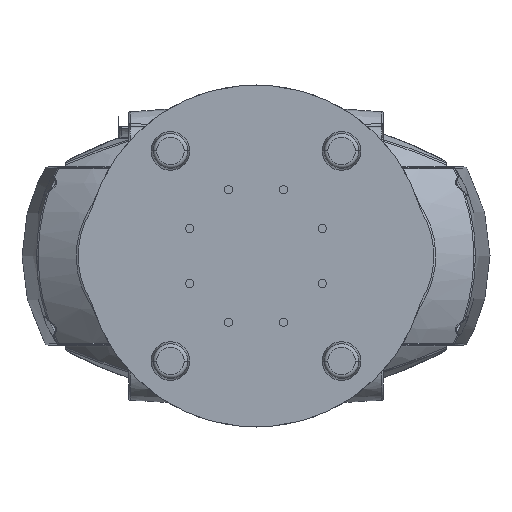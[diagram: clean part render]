
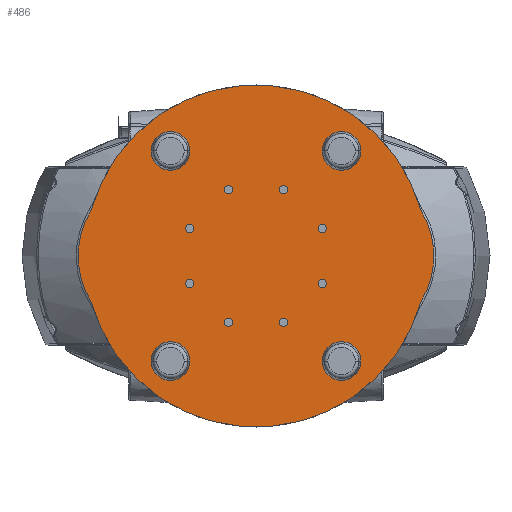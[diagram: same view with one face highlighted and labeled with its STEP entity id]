
A CAD part, front view. The second image highlights one B-rep face of the part: STEP entity #486.
In plain terms, the highlighted planar face has unit normal (0, -1, 0).
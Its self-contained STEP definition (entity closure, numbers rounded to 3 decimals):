
#148=CARTESIAN_POINT('',(0.,-1.,0.));
#149=DIRECTION('',(0.,1.,0.));
#150=DIRECTION('',(0.963,0.,-0.27));
#151=AXIS2_PLACEMENT_3D('',#148,#149,#150);
#153=CARTESIAN_POINT('',(-36.75,-1.,0.));
#154=DIRECTION('',(0.,1.,0.));
#155=DIRECTION('',(-0.852,0.,-0.524));
#156=AXIS2_PLACEMENT_3D('',#153,#154,#155);
#158=CARTESIAN_POINT('',(0.,-1.,0.));
#159=DIRECTION('',(0.,1.,0.));
#160=DIRECTION('',(-0.963,0.,0.27));
#161=AXIS2_PLACEMENT_3D('',#158,#159,#160);
#163=CARTESIAN_POINT('',(36.75,-1.,0.));
#164=DIRECTION('',(0.,1.,0.));
#165=DIRECTION('',(0.852,0.,0.524));
#166=AXIS2_PLACEMENT_3D('',#163,#164,#165);
#208=CARTESIAN_POINT('',(67.409,-1.,
-18.869));
#209=CARTESIAN_POINT('',(-67.409,-1.,
-18.869));
#210=VERTEX_POINT('',#208);
#211=VERTEX_POINT('',#209);
#212=CARTESIAN_POINT('',(-67.409,-1.,
18.869));
#213=CARTESIAN_POINT('',(67.409,-1.,18.869));
#214=VERTEX_POINT('',#212);
#215=VERTEX_POINT('',#213);
#475=CARTESIAN_POINT('',(0.,-1.,0.));
#476=DIRECTION('',(0.,1.,0.));
#477=DIRECTION('',(1.,0.,0.));
#478=AXIS2_PLACEMENT_3D('',#475,#476,#477);
#479=PLANE('',#478);
#480=ORIENTED_EDGE('',*,*,#246,.T.);
#481=ORIENTED_EDGE('',*,*,#461,.T.);
#482=ORIENTED_EDGE('',*,*,#268,.T.);
#483=ORIENTED_EDGE('',*,*,#441,.T.);
#484=EDGE_LOOP('',(#480,#481,#482,#483));
#485=FACE_OUTER_BOUND('',#484,.F.);
#152=CIRCLE('',#151,70.);
#157=CIRCLE('',#156,36.);
#162=CIRCLE('',#161,70.);
#167=CIRCLE('',#166,36.);
#246=EDGE_CURVE('',#210,#211,#152,.T.);
#268=EDGE_CURVE('',#214,#215,#162,.T.);
#441=EDGE_CURVE('',#215,#210,#167,.T.);
#461=EDGE_CURVE('',#211,#214,#157,.T.);
#486=ADVANCED_FACE('',(#485),#479,.F.);
